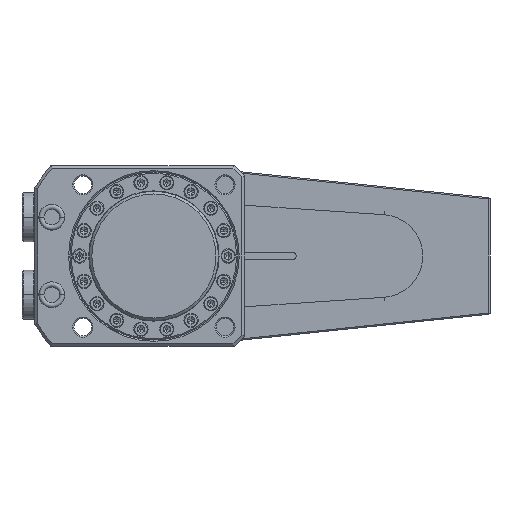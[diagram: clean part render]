
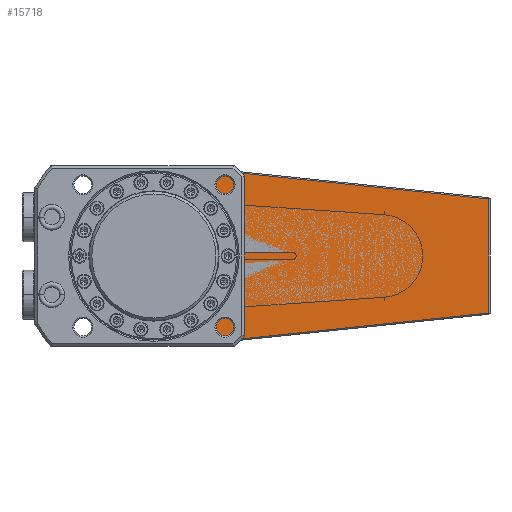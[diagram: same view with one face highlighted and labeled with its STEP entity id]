
A CAD part, front view. The second image highlights one B-rep face of the part: STEP entity #15718.
In plain terms, the highlighted planar face has unit normal (0, -1, 0).
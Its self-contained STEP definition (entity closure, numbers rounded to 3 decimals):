
#11600=DIRECTION('',(1.,0.,0.));
#11601=VECTOR('',#11600,18.844);
#11602=CARTESIAN_POINT('',(-34.5,-14.5,1.5));
#11603=LINE('',#11602,#11601);
#11604=DIRECTION('',(0.,0.,-1.));
#11605=VECTOR('',#11604,19.5);
#11606=CARTESIAN_POINT('',(-34.5,-14.5,21.));
#11607=LINE('',#11606,#11605);
#11608=DIRECTION('',(-0.707,0.,-0.707));
#11609=VECTOR('',#11608,1.414);
#11610=CARTESIAN_POINT('',(-33.5,-14.5,22.));
#11611=LINE('',#11610,#11609);
#11612=DIRECTION('',(-1.,0.,0.));
#11613=VECTOR('',#11612,29.);
#11614=CARTESIAN_POINT('',(-4.5,-14.5,22.));
#11615=LINE('',#11614,#11613);
#11616=DIRECTION('',(0.,0.,-1.));
#11617=VECTOR('',#11616,11.5);
#11618=CARTESIAN_POINT('',(-4.5,-14.5,33.5));
#11619=LINE('',#11618,#11617);
#11620=DIRECTION('',(-1.,0.,0.));
#11621=VECTOR('',#11620,24.474);
#11622=CARTESIAN_POINT('',(19.974,-14.5,33.5));
#11623=LINE('',#11622,#11621);
#11624=DIRECTION('',(-0.995,0.,0.104));
#11625=VECTOR('',#11624,110.123);
#11626=CARTESIAN_POINT('',(129.5,-14.5,22.05));
#11627=LINE('',#11626,#11625);
#11628=DIRECTION('',(0.,0.,1.));
#11629=VECTOR('',#11628,44.099);
#11630=CARTESIAN_POINT('',(129.5,-14.5,-22.05));
#11631=LINE('',#11630,#11629);
#11632=DIRECTION('',(0.995,0.,0.104));
#11633=VECTOR('',#11632,110.123);
#11634=CARTESIAN_POINT('',(19.974,-14.5,-33.5));
#11635=LINE('',#11634,#11633);
#11636=DIRECTION('',(1.,0.,0.));
#11637=VECTOR('',#11636,24.474);
#11638=CARTESIAN_POINT('',(-4.5,-14.5,-33.5));
#11639=LINE('',#11638,#11637);
#11640=DIRECTION('',(0.,0.,-1.));
#11641=VECTOR('',#11640,11.5);
#11642=CARTESIAN_POINT('',(-4.5,-14.5,-22.));
#11643=LINE('',#11642,#11641);
#11644=DIRECTION('',(1.,0.,0.));
#11645=VECTOR('',#11644,29.);
#11646=CARTESIAN_POINT('',(-33.5,-14.5,-22.));
#11647=LINE('',#11646,#11645);
#11648=DIRECTION('',(0.707,0.,-0.707));
#11649=VECTOR('',#11648,1.414);
#11650=CARTESIAN_POINT('',(-34.5,-14.5,-21.));
#11651=LINE('',#11650,#11649);
#11652=DIRECTION('',(0.,0.,-1.));
#11653=VECTOR('',#11652,19.5);
#11654=CARTESIAN_POINT('',(-34.5,-14.5,-1.5));
#11655=LINE('',#11654,#11653);
#11656=DIRECTION('',(1.,0.,0.));
#11657=VECTOR('',#11656,18.844);
#11658=CARTESIAN_POINT('',(-34.5,-14.5,-1.5));
#11659=LINE('',#11658,#11657);
#11665=CARTESIAN_POINT('',(0.,-14.5,0.));
#11666=DIRECTION('',(0.,1.,0.));
#11667=DIRECTION('',(-0.995,0.,0.095));
#11668=AXIS2_PLACEMENT_3D('',#11665,#11666,#11667);
#11772=CARTESIAN_POINT('',(-15.656,-14.5,
-1.5));
#11952=CARTESIAN_POINT('',(-15.656,-14.5,
1.5));
#15334=CARTESIAN_POINT('',(-33.5,-14.5,22.));
#15336=VERTEX_POINT('',#15334);
#15340=CARTESIAN_POINT('',(-4.5,-14.5,22.));
#15341=VERTEX_POINT('',#15340);
#15346=CARTESIAN_POINT('',(129.5,-14.5,-22.05));
#15347=CARTESIAN_POINT('',(129.5,-14.5,22.05));
#15348=VERTEX_POINT('',#15346);
#15349=VERTEX_POINT('',#15347);
#15359=CARTESIAN_POINT('',(-33.5,-14.5,-22.));
#15361=VERTEX_POINT('',#15359);
#15362=CARTESIAN_POINT('',(-4.5,-14.5,-22.));
#15363=VERTEX_POINT('',#15362);
#15382=CARTESIAN_POINT('',(-34.5,-14.5,-21.));
#15384=VERTEX_POINT('',#15382);
#15388=CARTESIAN_POINT('',(-34.5,-14.5,-1.5));
#15389=VERTEX_POINT('',#15388);
#15390=CARTESIAN_POINT('',(-34.5,-14.5,1.5));
#15392=VERTEX_POINT('',#15390);
#15396=CARTESIAN_POINT('',(-34.5,-14.5,21.));
#15397=VERTEX_POINT('',#15396);
#15399=VERTEX_POINT('',#11952);
#15400=VERTEX_POINT('',#11772);
#15446=CARTESIAN_POINT('',(-4.5,-14.5,-33.5));
#15447=VERTEX_POINT('',#15446);
#15448=CARTESIAN_POINT('',(19.974,-14.5,-33.5));
#15449=VERTEX_POINT('',#15448);
#15474=CARTESIAN_POINT('',(19.974,-14.5,33.5));
#15475=VERTEX_POINT('',#15474);
#15476=CARTESIAN_POINT('',(-4.5,-14.5,33.5));
#15477=VERTEX_POINT('',#15476);
#15679=CARTESIAN_POINT('',(0.,-14.5,0.));
#15680=DIRECTION('',(0.,1.,0.));
#15681=DIRECTION('',(1.,0.,0.));
#15682=AXIS2_PLACEMENT_3D('',#15679,#15680,#15681);
#15683=PLANE('',#15682);
#15685=ORIENTED_EDGE('',*,*,#15684,.F.);
#15687=ORIENTED_EDGE('',*,*,#15686,.F.);
#15689=ORIENTED_EDGE('',*,*,#15688,.F.);
#15691=ORIENTED_EDGE('',*,*,#15690,.F.);
#15693=ORIENTED_EDGE('',*,*,#15692,.F.);
#15695=ORIENTED_EDGE('',*,*,#15694,.F.);
#15697=ORIENTED_EDGE('',*,*,#15696,.F.);
#15699=ORIENTED_EDGE('',*,*,#15698,.F.);
#15701=ORIENTED_EDGE('',*,*,#15700,.F.);
#15703=ORIENTED_EDGE('',*,*,#15702,.F.);
#15705=ORIENTED_EDGE('',*,*,#15704,.F.);
#15707=ORIENTED_EDGE('',*,*,#15706,.F.);
#15709=ORIENTED_EDGE('',*,*,#15708,.F.);
#15711=ORIENTED_EDGE('',*,*,#15710,.F.);
#15713=ORIENTED_EDGE('',*,*,#15712,.F.);
#15715=ORIENTED_EDGE('',*,*,#15714,.T.);
#15716=EDGE_LOOP('',(#15685,#15687,#15689,#15691,#15693,#15695,#15697,#15699,
#15701,#15703,#15705,#15707,#15709,#15711,#15713,#15715));
#15717=FACE_OUTER_BOUND('',#15716,.F.);
#15718=ADVANCED_FACE('',(#15717),#15683,.F.);
#11669=CIRCLE('',#11668,15.728);
#15684=EDGE_CURVE('',#15399,#15400,#11669,.T.);
#15686=EDGE_CURVE('',#15392,#15399,#11603,.T.);
#15688=EDGE_CURVE('',#15397,#15392,#11607,.T.);
#15690=EDGE_CURVE('',#15336,#15397,#11611,.T.);
#15692=EDGE_CURVE('',#15341,#15336,#11615,.T.);
#15694=EDGE_CURVE('',#15477,#15341,#11619,.T.);
#15696=EDGE_CURVE('',#15475,#15477,#11623,.T.);
#15698=EDGE_CURVE('',#15349,#15475,#11627,.T.);
#15700=EDGE_CURVE('',#15348,#15349,#11631,.T.);
#15702=EDGE_CURVE('',#15449,#15348,#11635,.T.);
#15704=EDGE_CURVE('',#15447,#15449,#11639,.T.);
#15706=EDGE_CURVE('',#15363,#15447,#11643,.T.);
#15708=EDGE_CURVE('',#15361,#15363,#11647,.T.);
#15710=EDGE_CURVE('',#15384,#15361,#11651,.T.);
#15712=EDGE_CURVE('',#15389,#15384,#11655,.T.);
#15714=EDGE_CURVE('',#15389,#15400,#11659,.T.);
